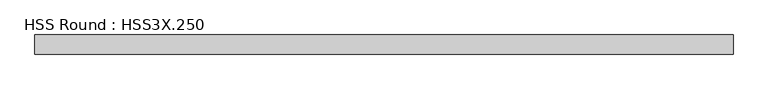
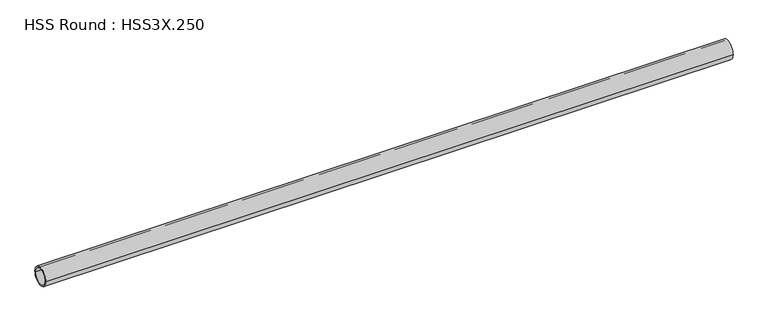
"""IFC4 building model written with IfcOpenShell, lengths in millimetres: member geometry, HSS Round : HSS3X.250."""

from ifc_helpers import new_model, si_unit, point, frame, origin, origin_2d, place, context, project, spatial, circle_curve, trimmed, segment, composite_curve, outline, extrude, source, transform, mapped, element, save


def hss_round_hss3x_250_20779bb7(model_context):
    return source(origin(), model_context, "Body", "SweptSolid", [
        extrude(outline(composite_curve([segment(trimmed(circle_curve(origin_2d(), 38.1), [point((-38.1, 0.0))], [point((38.1, 0.0))], False, "CARTESIAN"), True, "CONTINUOUS"), segment(trimmed(circle_curve(origin_2d(), 38.1), [point((38.1, 0.0))], [point((-38.1, 0.0))], False, "CARTESIAN"), True, "CONTINUOUS")], self_intersect=False), holes=[composite_curve([segment(trimmed(circle_curve(origin_2d(), 31.75), [point((31.75, 0.0))], [point((-31.75, 0.0))], True, "CARTESIAN"), True, "CONTINUOUS"), segment(trimmed(circle_curve(origin_2d(), 31.75), [point((-31.75, 0.0))], [point((31.75, 0.0))], True, "CARTESIAN"), True, "CONTINUOUS")], self_intersect=False)]), frame((-1362.1692751, 0.0, 0.0), z_axis=(1.0, 0.0, 0.0), x_axis=(0.0, 1.0, 0.0)), (0.0, 0.0, 1.0), 2778.9591267),
    ])


if __name__ == "__main__":
    model = new_model("IFC4")
    model_context = context("Model", 3, world=origin())
    ifc_project = project(units=[si_unit("LENGTHUNIT", "METRE", prefix="MILLI")], contexts=[model_context])
    site = spatial("IfcSite", under=ifc_project)
    building = spatial("IfcBuilding", under=site)
    placement = place(None, origin())
    hss_round_hss3x_250_shape = hss_round_hss3x_250_20779bb7(model_context)
    element("IfcMember", 1, ObjectType="HSS Round : HSS3X.250", at=placement, inside=building, context=model_context, shape_type="MappedRepresentation", body=[
        mapped(hss_round_hss3x_250_shape, transform((0.0, 0.0, 0.0), x_axis=(1.0, 0.0, 0.0), y_axis=(0.0, 1.0, 0.0), z_axis=(0.0, 0.0, 1.0))),
    ])
    save(model, "model.ifc")
